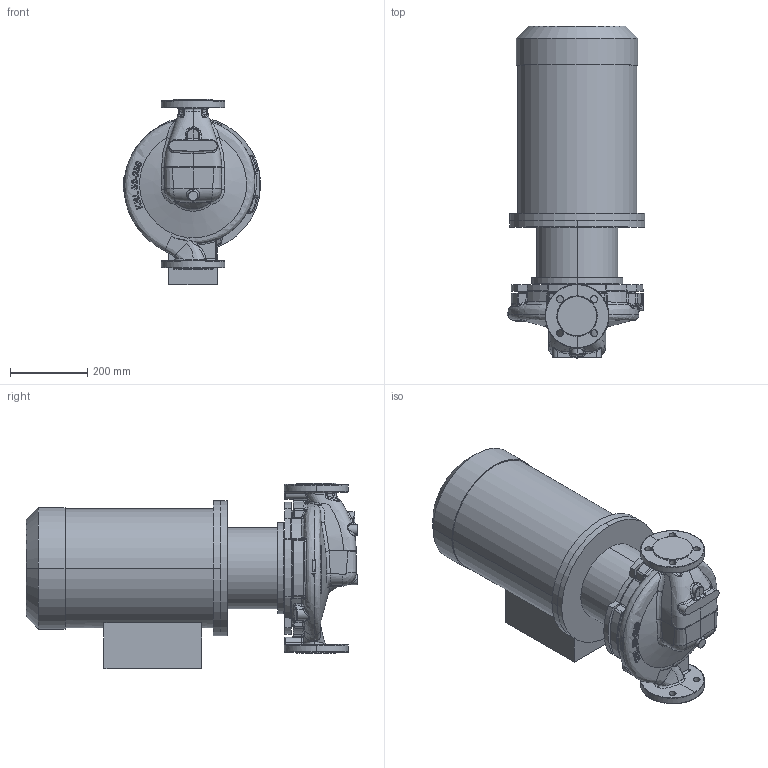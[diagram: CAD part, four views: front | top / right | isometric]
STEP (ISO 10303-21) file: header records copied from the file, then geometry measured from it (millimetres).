
FILE_DESCRIPTION (( 'STEP AP214' ), '1' );
FILE_NAME ('KRL 50-250-2-15.STEP', '2026-03-23T07:34:13', ( '' ), ( '' ), 'SwSTEP 2.0', 'SolidWorks 2016', '' );
FILE_SCHEMA (( 'AUTOMOTIVE_DESIGN' ));
Length unit declared in the file: millimetre
Products named in the file (1): KRL 50-250-2-15
Bounding box: 355.57 x 860.3 x 480 mm (x, y, z)
Volume: 60709925.4 mm3; surface area: 1752045 mm2
Topology: 4 solids, 4 shells, 873 faces, 2158 edges, 1302 vertices
Faces by surface type: bspline 456, plane 150, cylinder 141, sphere 47, cone 44, torus 35
Entity records: 74287 total; most frequent: CARTESIAN_POINT 47844, ORIENTED_EDGE 4272, DIRECTION 2411, EDGE_CURVE 2136, VERTEX_POINT 1302, AXIS2_PLACEMENT_3D 987, B_SPLINE_CURVE_WITH_KNOTS 960, EDGE_LOOP 920
